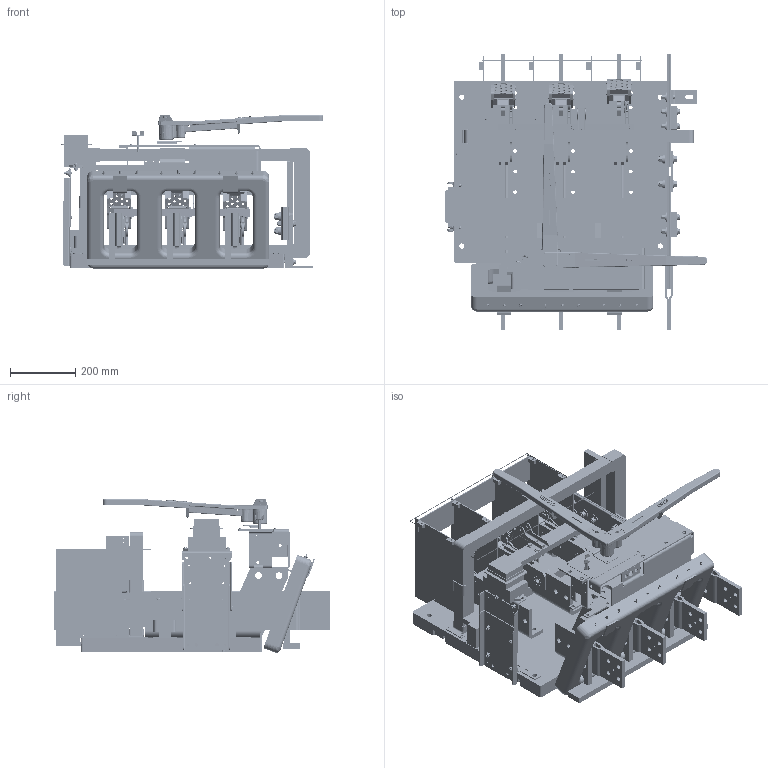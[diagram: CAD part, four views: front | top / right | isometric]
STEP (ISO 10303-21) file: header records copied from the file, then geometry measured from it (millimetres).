
FILE_DESCRIPTION(/* description */ (''),/* implementation_level */ '2;1');
FILE_NAME(/* name */ 'H:\switches\3d-templates\catalog-switches-iges-files\CATALOG-VL3610AG60.stp',/* time_stamp */ '2022-03-23T14:57:11-05:00',/* author */ ('MKingston'),/* organization */ (''),/* preprocessor_version */ 'ST-DEVELOPER v18.1',/* originating_system */ 'Autodesk Inventor 2022',/* authorisation */ '');
FILE_SCHEMA (('AUTOMOTIVE_DESIGN { 1 0 10303 214 3 1 1 }'));
Products named in the file (108): catalog-VL3610; 277; 669-D; 669-C; 669-E; CATALOG-2000amp-blade-assy; 69-AL; 69-AR; 67-fc3; 69-gc3; 67-j; 69-M; ANSI/ASME B18.7 - T 0.252 x 17/32; ANSI/ASME B18.7 - T 0.188 x 17/32; 235-b; CATALOG-57-qj-arc-chute-assy; 50-QLX; 50-QRX; 363-da; 363-da_MIR; 57-QJT; 57-QJB; 57-QJS; 57-QJSB; 57-QJST; ANSI B18.6.3 - 8-32 UNC - 3; ANSI B18.2.2 - 8 - 32; ANSI B18.6.4 - No. 8 - 32 - 3/8; 230-a; 255-z; 246-a; 223-d-transparent; 255-bha; 255-c; 178-c; gfi-ring-assembly; GFS10X24; 277-ma; gfr-1-mounting-assembly; 277-L1T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
Assembly tree (270 placements, depth 4):
  catalog-VL3610
    277
    669-D  x3
    669-C  x3
    669-E  x3
    CATALOG-2000amp-blade-assy  x3
      69-AL
      69-AR
      67-fc3
      69-gc3
      67-j
      69-M
      ANSI/ASME B18.7 - T 0.252 x 17/32
      ANSI/ASME B18.7 - T 0.188 x 17/32
    235-b
    CATALOG-57-qj-arc-chute-assy  x3
      50-QLX
      50-QRX
      363-da
      363-da_MIR
      57-QJT
      57-QJB
      57-QJS
      57-QJSB
      57-QJST
      ANSI B18.6.3 - 8-32 UNC - 3
      ANSI B18.2.2 - 8 - 32
      ANSI B18.6.4 - No. 8 - 32 - 3/8
    230-a
    255-bha  x4
    255-z
    246-a  x2
    223-d-transparent
    255-c
    178-c  x8
    gfi-ring-assembly
      GFS10X24
      277-ma
    gfr-1-mounting-assembly
      277-L1T
      277-l2
      277-l3
      277-l4
      gfr-1
      Bolted Connection
        ANSI B18.22.1 - No. 10 - Type A  x4
        ASME B18.21.1 - No. 10. Carbon Steel, ETLWTB(1)  x4
        ANSI B18.6.3 - 10 - 32 x 7/8 SR HMS  x2
        ANSI B18.2.2 - 10 - 32, HMSNI  x2
      Bolted Connection_1
        ANSI B18.5 - 1/4-20 UNC - 0.75, RHBI  x6
        ASTM F436 - 1/4, CW  x6
        ASME B18.21.1 - 1/4. Carbon Steel, HITLWTB(1)  x6
        ANSI B18.2.2 - 1/4 - 20, HNI  x6
    transformer
    2000-VL-NEUTRAL
      675-a
      675-ef  x2
      676-j  x4
      677-d  x2
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Bounding box: 807.2 x 849.6 x 471.19 mm (x, y, z)
Volume: 29801453.4 mm3; surface area: 6040153.7 mm2
Topology: 347 solids, 348 shells, 9588 faces, 24028 edges, 15512 vertices
Faces by surface type: plane 4811, cylinder 2855, cone 1168, bspline 463, torus 241, sphere 50
Full cylindrical faces by diameter (mm): 1.702 x8, 3.175 x4, 3.302 x8, 3.581 x2, 3.683 x8, 3.759 x12, 3.81 x9, 3.962 x11, 4.089 x4, 4.166 x24, 4.191 x9, 4.293 x9, 4.305 x42, 4.366 x2, 4.496 x24, 4.572 x9, 4.653 x4, 4.762 x4, 4.775 x11, 4.801 x8, 4.826 x2, 4.902 x14, 4.915 x24, 4.953 x4, 4.978 x11, 5.462 x4, 5.537 x3, 5.556 x5, 5.563 x4, 5.791 x6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
Entity records: 141837 total; most frequent: CARTESIAN_POINT 34475, DIRECTION 21605, ORIENTED_EDGE 21090, EDGE_CURVE 10553, AXIS2_PLACEMENT_3D 7677, VERTEX_POINT 6801, LINE 6251, VECTOR 6251
